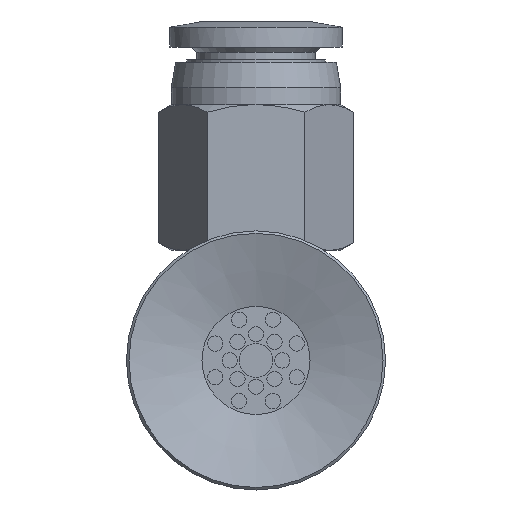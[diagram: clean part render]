
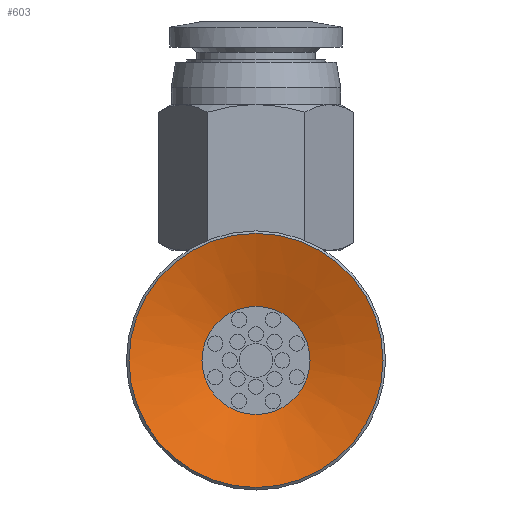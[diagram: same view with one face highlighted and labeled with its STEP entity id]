
A CAD part, front view. The second image highlights one B-rep face of the part: STEP entity #603.
In plain terms, the highlighted conical face has half-angle 72 degrees and reference radius 7.5 mm.
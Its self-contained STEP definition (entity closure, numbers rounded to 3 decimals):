
#603=ADVANCED_FACE('',(#1010,#1011),#1012,.F.);
#1010=FACE_BOUND('',#1729,.T.);
#1011=FACE_OUTER_BOUND('',#1730,.T.);
#1012=CONICAL_SURFACE('',#1731,7.5,1.257);
#1729=EDGE_LOOP('',(#2861));
#1730=EDGE_LOOP('',(#2862));
#1731=AXIS2_PLACEMENT_3D('',#2863,#2864,#2865);
#2861=ORIENTED_EDGE('',*,*,#3382,.T.);
#2862=ORIENTED_EDGE('',*,*,#3383,.F.);
#2863=CARTESIAN_POINT('',(0.0,0.,0.));
#2864=DIRECTION('',(0.0,0.,-1.0));
#2865=DIRECTION('',(0.0,1.0,0.));
#3382=EDGE_CURVE('',#3894,#3894,#3895,.T.);
#3383=EDGE_CURVE('',#3896,#3896,#3897,.T.);
#3894=VERTEX_POINT('',#5204);
#3895=CIRCLE('',#5205,3.191);
#3896=VERTEX_POINT('',#5206);
#3897=CIRCLE('',#5207,7.5);
#5204=CARTESIAN_POINT('',(0.0,-3.191,1.4));
#5205=AXIS2_PLACEMENT_3D('',#5684,#5685,#5686);
#5206=CARTESIAN_POINT('',(0.0,-7.5,0.));
#5207=AXIS2_PLACEMENT_3D('',#5687,#5688,#5689);
#5684=CARTESIAN_POINT('',(0.0,0.,1.4));
#5685=DIRECTION('',(0.0,0.,1.0));
#5686=DIRECTION('',(0.0,-1.0,0.));
#5687=CARTESIAN_POINT('',(0.0,0.,0.));
#5688=DIRECTION('',(0.0,0.,1.0));
#5689=DIRECTION('',(0.0,-1.0,0.));
